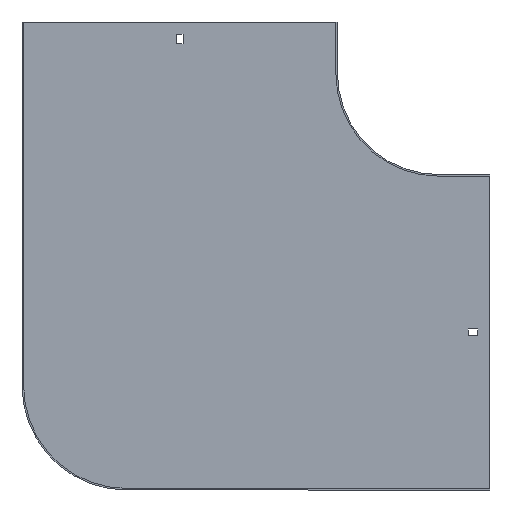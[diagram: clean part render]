
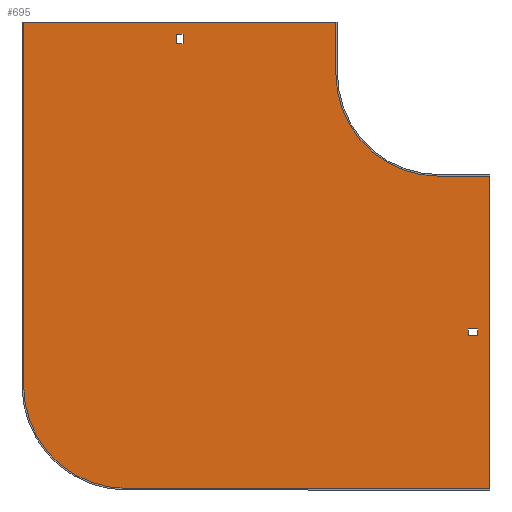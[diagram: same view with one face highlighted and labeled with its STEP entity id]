
A CAD part, front view. The second image highlights one B-rep face of the part: STEP entity #695.
In plain terms, the highlighted planar face has unit normal (0, -1, 0).
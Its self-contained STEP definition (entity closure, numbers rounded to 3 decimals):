
#1 = EDGE_CURVE ( 'NONE', #38, #452, #478, .T. ) ;
#2 = CARTESIAN_POINT ( 'NONE',  ( -404., -1.5, -304. ) ) ;
#3 = DIRECTION ( 'NONE',  ( 1., 0., 0. ) ) ;
#9 = VECTOR ( 'NONE', #304, 1000. ) ;
#14 = LINE ( 'NONE', #534, #604 ) ;
#17 = CARTESIAN_POINT ( 'NONE',  ( 50., -1.5, -404. ) ) ;
#28 = EDGE_CURVE ( 'NONE', #271, #458, #323, .T. ) ;
#35 = LINE ( 'NONE', #653, #569 ) ;
#36 = LINE ( 'NONE', #236, #817 ) ;
#38 = VERTEX_POINT ( 'NONE', #280 ) ;
#41 = DIRECTION ( 'NONE',  ( 1., 0., 0. ) ) ;
#46 = DIRECTION ( 'NONE',  ( 1., 0., 0. ) ) ;
#57 = DIRECTION ( 'NONE',  ( 0., 0., -1. ) ) ;
#60 = VERTEX_POINT ( 'NONE', #87 ) ;
#64 = ORIENTED_EDGE ( 'NONE', *, *, #286, .F. ) ;
#74 = DIRECTION ( 'NONE',  ( 0., 0., 1. ) ) ;
#77 = EDGE_CURVE ( 'NONE', #458, #231, #345, .T. ) ;
#87 = CARTESIAN_POINT ( 'NONE',  ( -255.25, -1.5, 29. ) ) ;
#91 = VERTEX_POINT ( 'NONE', #341 ) ;
#98 = DIRECTION ( 'NONE',  ( 0., -1., 0. ) ) ;
#103 = CARTESIAN_POINT ( 'NONE',  ( 50., -1.5, -404. ) ) ;
#104 = CARTESIAN_POINT ( 'NONE',  ( -255.25, -1.5, 0. ) ) ;
#108 = DIRECTION ( 'NONE',  ( -1., 0., 0. ) ) ;
#111 = ORIENTED_EDGE ( 'NONE', *, *, #314, .F. ) ;
#128 = LINE ( 'NONE', #524, #364 ) ;
#131 = EDGE_LOOP ( 'NONE', ( #632, #347, #726, #306 ) ) ;
#146 = EDGE_CURVE ( 'NONE', #840, #226, #36, .T. ) ;
#158 = ORIENTED_EDGE ( 'NONE', *, *, #522, .F. ) ;
#159 = CARTESIAN_POINT ( 'NONE',  ( -100., -1.5, 50. ) ) ;
#166 = VECTOR ( 'NONE', #427, 1000. ) ;
#174 = EDGE_CURVE ( 'NONE', #60, #840, #504, .T. ) ;
#196 = ORIENTED_EDGE ( 'NONE', *, *, #77, .F. ) ;
#202 = CARTESIAN_POINT ( 'NONE',  ( 29., -1.5, 0. ) ) ;
#210 = CARTESIAN_POINT ( 'NONE',  ( 38., -1.5, -248.75 ) ) ;
#226 = VERTEX_POINT ( 'NONE', #839 ) ;
#229 = CARTESIAN_POINT ( 'NONE',  ( -100., -1.5, 50. ) ) ;
#231 = VERTEX_POINT ( 'NONE', #724 ) ;
#234 = FACE_BOUND ( 'NONE', #131, .T. ) ;
#236 = CARTESIAN_POINT ( 'NONE',  ( 0., -1.5, 38. ) ) ;
#237 = ORIENTED_EDGE ( 'NONE', *, *, #697, .F. ) ;
#264 = DIRECTION ( 'NONE',  ( 0., 0., 1. ) ) ;
#268 = DIRECTION ( 'NONE',  ( -1., 0., 0. ) ) ;
#271 = VERTEX_POINT ( 'NONE', #717 ) ;
#278 = AXIS2_PLACEMENT_3D ( 'NONE', #712, #572, #846 ) ;
#280 = CARTESIAN_POINT ( 'NONE',  ( -100., -1.5, 0. ) ) ;
#284 = LINE ( 'NONE', #229, #9 ) ;
#286 = EDGE_CURVE ( 'NONE', #662, #38, #284, .T. ) ;
#287 = CARTESIAN_POINT ( 'NONE',  ( 50., -1.5, -100. ) ) ;
#292 = LINE ( 'NONE', #355, #531 ) ;
#293 = VECTOR ( 'NONE', #555, 1000. ) ;
#296 = EDGE_LOOP ( 'NONE', ( #633, #363, #673, #158, #111, #496, #644, #64 ) ) ;
#304 = DIRECTION ( 'NONE',  ( 0., 0., -1. ) ) ;
#306 = ORIENTED_EDGE ( 'NONE', *, *, #174, .T. ) ;
#309 = VECTOR ( 'NONE', #74, 1000. ) ;
#314 = EDGE_CURVE ( 'NONE', #471, #656, #128, .T. ) ;
#316 = CARTESIAN_POINT ( 'NONE',  ( -304., -1.5, -404. ) ) ;
#323 = LINE ( 'NONE', #816, #346 ) ;
#339 = EDGE_CURVE ( 'NONE', #452, #471, #14, .T. ) ;
#341 = CARTESIAN_POINT ( 'NONE',  ( 29., -1.5, -255.25 ) ) ;
#343 = CARTESIAN_POINT ( 'NONE',  ( 0., -1.5, -255.25 ) ) ;
#345 = LINE ( 'NONE', #616, #755 ) ;
#346 = VECTOR ( 'NONE', #264, 1000. ) ;
#347 = ORIENTED_EDGE ( 'NONE', *, *, #691, .T. ) ;
#351 = FACE_BOUND ( 'NONE', #777, .T. ) ;
#355 = CARTESIAN_POINT ( 'NONE',  ( 0., -1.5, 29. ) ) ;
#363 = ORIENTED_EDGE ( 'NONE', *, *, #772, .F. ) ;
#364 = VECTOR ( 'NONE', #738, 1000. ) ;
#374 = ORIENTED_EDGE ( 'NONE', *, *, #28, .F. ) ;
#412 = DIRECTION ( 'NONE',  ( 0., 0., -1. ) ) ;
#420 = VECTOR ( 'NONE', #459, 1000. ) ;
#427 = DIRECTION ( 'NONE',  ( 0., 0., 1. ) ) ;
#443 = VERTEX_POINT ( 'NONE', #488 ) ;
#450 = EDGE_CURVE ( 'NONE', #443, #60, #292, .T. ) ;
#452 = VERTEX_POINT ( 'NONE', #700 ) ;
#458 = VERTEX_POINT ( 'NONE', #210 ) ;
#459 = DIRECTION ( 'NONE',  ( 0., 0., -1. ) ) ;
#471 = VERTEX_POINT ( 'NONE', #287 ) ;
#477 = CARTESIAN_POINT ( 'NONE',  ( -255.25, -1.5, 38. ) ) ;
#478 = CIRCLE ( 'NONE', #685, 100. ) ;
#484 = FACE_OUTER_BOUND ( 'NONE', #296, .T. ) ;
#488 = CARTESIAN_POINT ( 'NONE',  ( -248.75, -1.5, 29. ) ) ;
#493 = CARTESIAN_POINT ( 'NONE',  ( -405.5, -1.5, 50. ) ) ;
#494 = LINE ( 'NONE', #343, #588 ) ;
#496 = ORIENTED_EDGE ( 'NONE', *, *, #339, .F. ) ;
#504 = LINE ( 'NONE', #104, #166 ) ;
#516 = AXIS2_PLACEMENT_3D ( 'NONE', #779, #98, #412 ) ;
#522 = EDGE_CURVE ( 'NONE', #656, #782, #612, .T. ) ;
#523 = LINE ( 'NONE', #657, #309 ) ;
#524 = CARTESIAN_POINT ( 'NONE',  ( 50., -1.5, -98.5 ) ) ;
#531 = VECTOR ( 'NONE', #108, 1000. ) ;
#534 = CARTESIAN_POINT ( 'NONE',  ( 0., -1.5, -100. ) ) ;
#539 = EDGE_CURVE ( 'NONE', #544, #662, #694, .T. ) ;
#544 = VERTEX_POINT ( 'NONE', #707 ) ;
#555 = DIRECTION ( 'NONE',  ( 1., 0., 0. ) ) ;
#569 = VECTOR ( 'NONE', #57, 1000. ) ;
#572 = DIRECTION ( 'NONE',  ( 0., 1., 0. ) ) ;
#588 = VECTOR ( 'NONE', #41, 1000. ) ;
#592 = CARTESIAN_POINT ( 'NONE',  ( 0., -1.5, 0. ) ) ;
#604 = VECTOR ( 'NONE', #3, 1000. ) ;
#607 = EDGE_CURVE ( 'NONE', #782, #765, #652, .T. ) ;
#612 = LINE ( 'NONE', #17, #687 ) ;
#616 = CARTESIAN_POINT ( 'NONE',  ( 0., -1.5, -248.75 ) ) ;
#624 = ORIENTED_EDGE ( 'NONE', *, *, #801, .F. ) ;
#632 = ORIENTED_EDGE ( 'NONE', *, *, #146, .T. ) ;
#633 = ORIENTED_EDGE ( 'NONE', *, *, #539, .F. ) ;
#644 = ORIENTED_EDGE ( 'NONE', *, *, #1, .F. ) ;
#652 = CIRCLE ( 'NONE', #278, 100. ) ;
#653 = CARTESIAN_POINT ( 'NONE',  ( -248.75, -1.5, 0. ) ) ;
#656 = VERTEX_POINT ( 'NONE', #103 ) ;
#657 = CARTESIAN_POINT ( 'NONE',  ( -404., -1.5, -304. ) ) ;
#662 = VERTEX_POINT ( 'NONE', #159 ) ;
#673 = ORIENTED_EDGE ( 'NONE', *, *, #607, .F. ) ;
#679 = DIRECTION ( 'NONE',  ( 0., 0., -1. ) ) ;
#685 = AXIS2_PLACEMENT_3D ( 'NONE', #592, #863, #679 ) ;
#687 = VECTOR ( 'NONE', #268, 1000. ) ;
#691 = EDGE_CURVE ( 'NONE', #226, #443, #35, .T. ) ;
#694 = LINE ( 'NONE', #493, #293 ) ;
#695 = ADVANCED_FACE ( 'NONE', ( #351, #484, #234 ), #763, .T. ) ;
#697 = EDGE_CURVE ( 'NONE', #91, #271, #494, .T. ) ;
#700 = CARTESIAN_POINT ( 'NONE',  ( 0., -1.5, -100. ) ) ;
#707 = CARTESIAN_POINT ( 'NONE',  ( -404., -1.5, 50. ) ) ;
#712 = CARTESIAN_POINT ( 'NONE',  ( -304., -1.5, -304. ) ) ;
#717 = CARTESIAN_POINT ( 'NONE',  ( 38., -1.5, -255.25 ) ) ;
#724 = CARTESIAN_POINT ( 'NONE',  ( 29., -1.5, -248.75 ) ) ;
#726 = ORIENTED_EDGE ( 'NONE', *, *, #450, .T. ) ;
#738 = DIRECTION ( 'NONE',  ( 0., 0., -1. ) ) ;
#755 = VECTOR ( 'NONE', #833, 1000. ) ;
#763 = PLANE ( 'NONE',  #516 ) ;
#765 = VERTEX_POINT ( 'NONE', #2 ) ;
#772 = EDGE_CURVE ( 'NONE', #765, #544, #523, .T. ) ;
#777 = EDGE_LOOP ( 'NONE', ( #196, #374, #237, #624 ) ) ;
#779 = CARTESIAN_POINT ( 'NONE',  ( 0., -1.5, 0. ) ) ;
#782 = VERTEX_POINT ( 'NONE', #316 ) ;
#801 = EDGE_CURVE ( 'NONE', #231, #91, #806, .T. ) ;
#806 = LINE ( 'NONE', #202, #420 ) ;
#816 = CARTESIAN_POINT ( 'NONE',  ( 38., -1.5, 0. ) ) ;
#817 = VECTOR ( 'NONE', #46, 1000. ) ;
#833 = DIRECTION ( 'NONE',  ( -1., 0., 0. ) ) ;
#839 = CARTESIAN_POINT ( 'NONE',  ( -248.75, -1.5, 38. ) ) ;
#840 = VERTEX_POINT ( 'NONE', #477 ) ;
#846 = DIRECTION ( 'NONE',  ( 0., 0., -1. ) ) ;
#863 = DIRECTION ( 'NONE',  ( 0., -1., 0. ) ) ;
